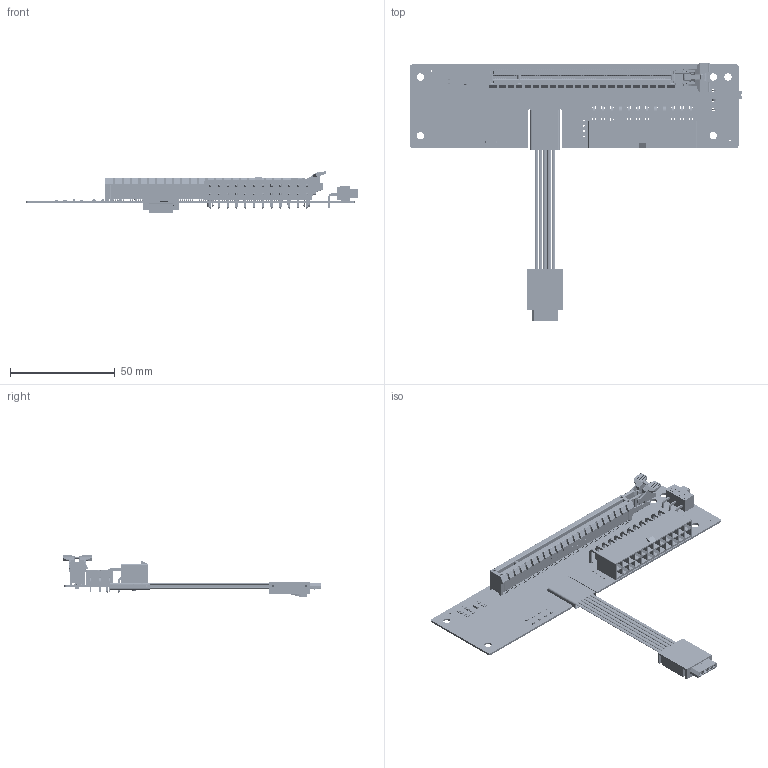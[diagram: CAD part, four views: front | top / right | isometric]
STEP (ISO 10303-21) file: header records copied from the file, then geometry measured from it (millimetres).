
FILE_DESCRIPTION(('Open CASCADE Model'),'2;1');
FILE_NAME('Open CASCADE Shape Model','2025-08-13T15:13:53',('Author'),( 'Open CASCADE'),'Open CASCADE STEP processor 7.5','Open CASCADE 7.5' ,'Unknown');
FILE_SCHEMA(('AUTOMOTIVE_DESIGN { 1 0 10303 214 1 1 1 1 }'));
Length unit declared in the file: millimetre
Products named in the file (164): PCB; Board; Open CASCADE STEP translator 7.5 7.1.1; C1; C0603_060; D1; LED AP1608; D2; D3; D4; R2; 0603_RES; Capsule; Encapsulation; TopCover; R3; R4; R8; R9; CN1; APCI0418-P010C_3D 2; R1; Q1; SOT-23; CN3; 039300240; C2; R11; R5; D7; User Library-SOD523F; D6; D5; R7; R6; R10; R12; Designator4_2; SFF-8611-1; Free-Models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
Assembly tree (296 placements, depth 4):
  PCB
    Board
      Open CASCADE STEP translator 7.5 7.1.1
    C1
      C0603_060
      C0603_060
      C0603_060
    D1
      LED AP1608
    D2
      LED AP1608
    D3
      LED AP1608
    D4
      LED AP1608
    R2
      0603_RES
        Capsule
        Encapsulation  x2
        TopCover
    R3
      0603_RES
        Capsule
        Encapsulation  x2
        TopCover
    R4
      0603_RES
        Capsule
        Encapsulation  x2
        TopCover
    R8
      0603_RES
        Capsule
        Encapsulation  x2
        TopCover
    R9
      0603_RES
        Capsule
        Encapsulation  x2
        TopCover
    CN1
      APCI0418-P010C_3D 2
    R1
      0603_RES
        Capsule
        Encapsulation  x2
        TopCover
    Q1
      SOT-23
    CN3
      039300240
    C2
      C0603_060
      C0603_060
      C0603_060
    R11
      0603_RES
        Capsule
        Encapsulation  x2
        TopCover
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Bounding box: 158.68 x 123.46 x 20.12 mm (x, y, z)
Volume: 20598.1 mm3; surface area: 52939 mm2
Topology: 317 solids, 486 shells, 17405 faces, 46378 edges, 30438 vertices
Faces by surface type: plane 12808, cylinder 3133, bspline 1369, sphere 56, extrusion 20, cone 10, torus 9
Full cylindrical faces by diameter (mm): 0.2 x120, 0.254 x160, 0.6 x6, 0.63 x40, 0.762 x2, 0.9 x4, 1 x12, 1.2 x1, 1.5 x3, 1.8 x24, 3 x2, 3.5 x5
Entity records: 467166 total; most frequent: CARTESIAN_POINT 86960, ORIENTED_EDGE 73234, DIRECTION 68082, EDGE_CURVE 36647, VECTOR 29646, LINE 29636, VERTEX_POINT 24080, AXIS2_PLACEMENT_3D 19218
